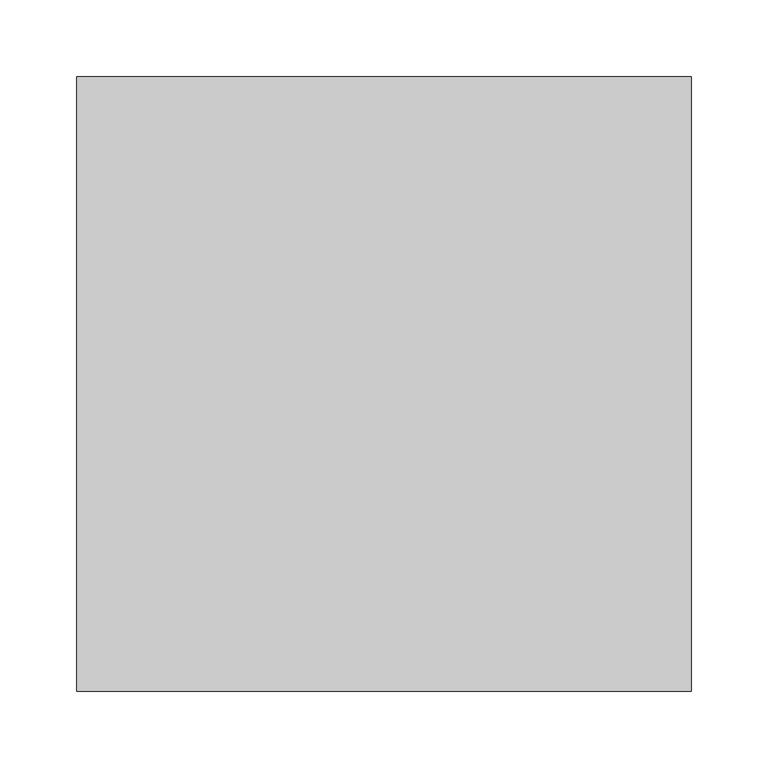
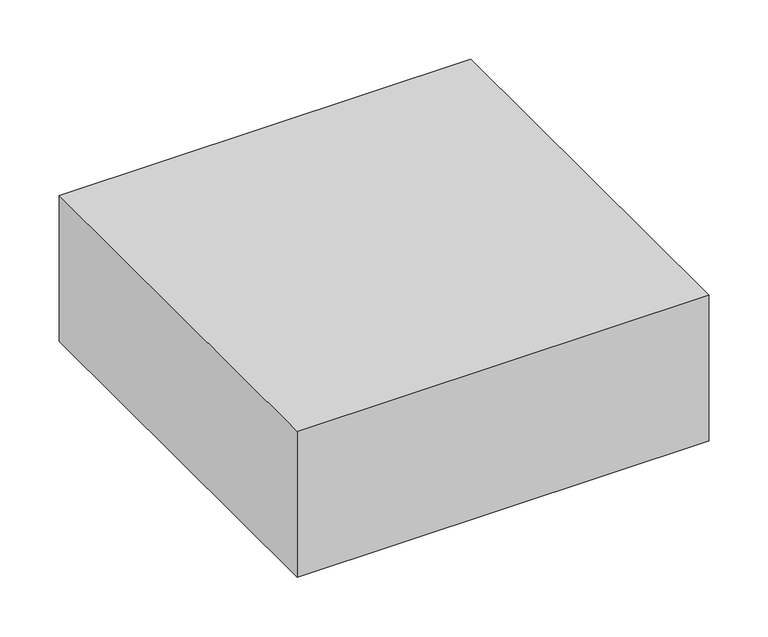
"""IFC4 building model written with IfcOpenShell, lengths in millimetres: column geometry, Column Encasement : Column Encasement."""

from ifc_helpers import new_model, si_unit, frame, origin, place, context, project, spatial, polyline, outline, extrude, source, transform, mapped, element, save


def column_57cc7a02(model_context):
    return source(origin(), model_context, "Body", "SweptSolid", [
        extrude(outline(polyline([(-35349.8558263, 11251.0830053), (-34949.8558263, 11251.0830053), (-34949.8558263, 10851.0830053), (-35349.8558263, 10851.0830053), (-35349.8558263, 11251.0830053)])), frame((0.0, 0.0, -93.0), z_axis=(0.0, 0.0, 1.0), x_axis=(1.0, 0.0, 0.0)), (0.0, 0.0, 1.0), 150.0),
    ])


if __name__ == "__main__":
    model = new_model("IFC4")
    model_context = context("Model", 3, world=origin())
    ifc_project = project(units=[si_unit("LENGTHUNIT", "METRE", prefix="MILLI")], contexts=[model_context])
    site = spatial("IfcSite", under=ifc_project)
    building = spatial("IfcBuilding", under=site)
    placement = place(None, origin())
    column_shape = column_57cc7a02(model_context)
    element("IfcColumn", 1, ObjectType="Column Encasement : Column Encasement", at=placement, inside=building, context=model_context, shape_type="MappedRepresentation", body=[
        mapped(column_shape, transform((0.0, 0.0, 0.0), x_axis=(1.0, 0.0, 0.0), y_axis=(0.0, 1.0, 0.0), z_axis=(0.0, 0.0, 1.0))),
    ])
    save(model, "model.ifc")
